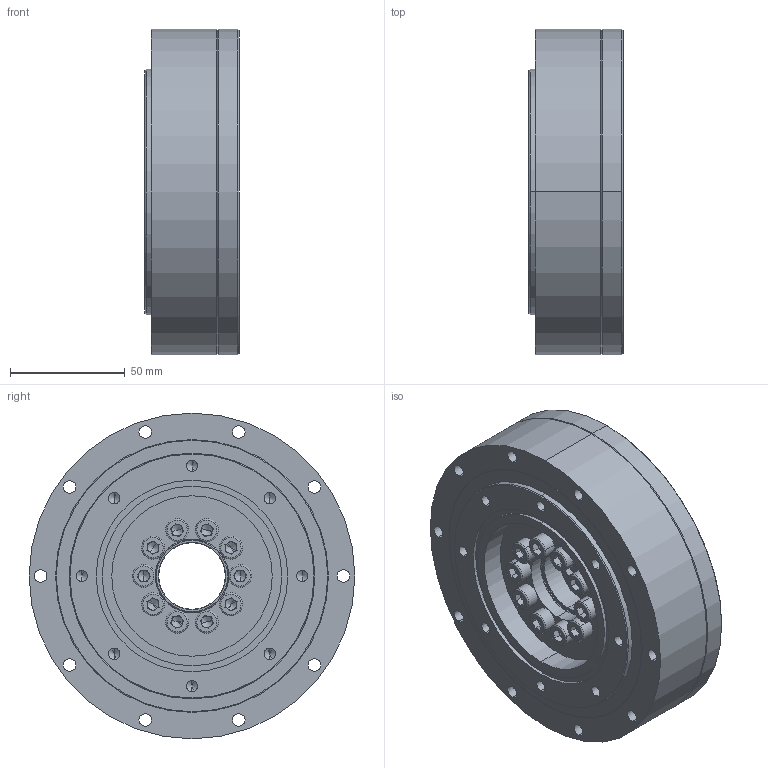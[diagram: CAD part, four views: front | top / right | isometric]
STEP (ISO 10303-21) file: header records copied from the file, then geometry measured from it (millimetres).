
FILE_DESCRIPTION (( 'STEP AP203' ), '1' );
FILE_NAME ('LCD-32-XXX-C-I.STEP', '2022-06-25T07:32:29', ( '' ), ( '' ), 'SwSTEP 2.0', 'SolidWorks 2013', '' );
FILE_SCHEMA (( 'CONFIG_CONTROL_DESIGN' ));
Length unit declared in the file: millimetre
Products named in the file (16): LCD-32-P04-2; LCD-32-P04-1; RZC-32S内外圈+钢球; LCD-32-P05; countersunk flat head cross recess screw_din_ISO 7046-1 - M3 x 8 - Z --- 8C; DB-32s-I; LCD-32-XXX-P03-I; RZC-32悵厥殤; 内六角圆柱头螺钉M4 x 14_内六角圆柱头螺钉M4 x 16; LCD-32-XXX-C-I; LCD-32-P04-3; LCD-32-100-P01-TT; 柔性轴承RZC-32S; LCD-32-XXX-P02; 内六角圆柱头螺钉M6 x 16_内六角圆柱头螺钉M6 x 16; 葩璃 1071196 TCY
Assembly tree (31 placements, depth 3):
  LCD-32-XXX-C-I
    柔性轴承RZC-32S
      RZC-32S内外圈+钢球
      RZC-32悵厥殤
    LCD-32-100-P01-TT
    LCD-32-XXX-P03-I
    DB-32s-I
    countersunk flat head cross recess screw_din_ISO 7046-1 - M3 x 8 - Z --- 8C  x4
    LCD-32-XXX-P02
    LCD-32-P04-1
    LCD-32-P04-2
    LCD-32-P04-3
    内六角圆柱头螺钉M4 x 14_内六角圆柱头螺钉M4 x 16  x5
    内六角圆柱头螺钉M6 x 16_内六角圆柱头螺钉M6 x 16  x10
    LCD-32-P05
    葩璃 1071196 TCY
Bounding box: 41 x 142 x 142 mm (x, y, z)
Volume: 453665.8 mm3; surface area: 196733.1 mm2
Topology: 54 solids, 54 shells, 1280 faces, 3085 edges, 1871 vertices
Faces by surface type: cylinder 452, plane 436, cone 224, torus 122, sphere 46
Entity records: 26282 total; most frequent: DIRECTION 4745, CARTESIAN_POINT 4057, ORIENTED_EDGE 3804, AXIS2_PLACEMENT_3D 2023, EDGE_CURVE 1902, VERTEX_POINT 1219, CIRCLE 1174, EDGE_LOOP 1051
